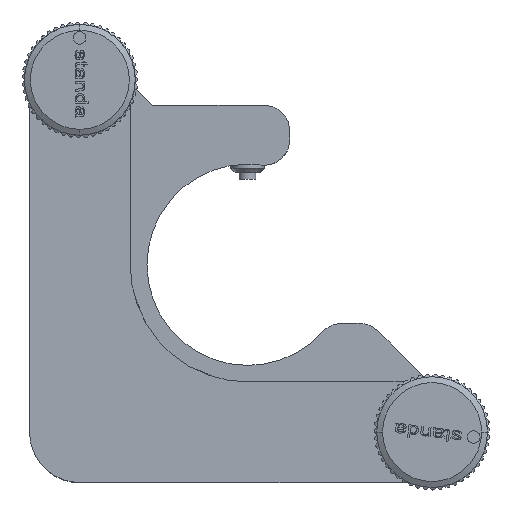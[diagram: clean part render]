
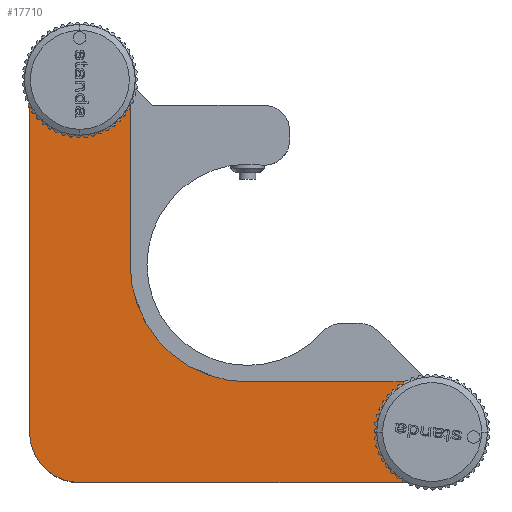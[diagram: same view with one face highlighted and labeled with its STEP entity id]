
A CAD part, top view. The second image highlights one B-rep face of the part: STEP entity #17710.
In plain terms, the highlighted planar face has unit normal (0, 0, 1).
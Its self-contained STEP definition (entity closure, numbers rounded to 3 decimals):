
#3754 = CARTESIAN_POINT ( 'NONE',  ( 46.926, 5.962, 16. ) ) ;
#3755 = AXIS2_PLACEMENT_3D ( 'NONE', #3754, #3814, #3813 ) ;
#3756 = CIRCLE ( 'NONE', #3755, 3. ) ;
#3809 = CARTESIAN_POINT ( 'NONE',  ( 46.926, 2.962, 16. ) ) ;
#3812 = CARTESIAN_POINT ( 'NONE',  ( 46.926, 8.962, 16. ) ) ;
#3813 = DIRECTION ( 'NONE',  ( 0., -1., 0. ) ) ;
#3814 = DIRECTION ( 'NONE',  ( 0., 0., -1. ) ) ;
#4319 = CARTESIAN_POINT ( 'NONE',  ( 4.926, 50.962, 16. ) ) ;
#4367 = CARTESIAN_POINT ( 'NONE',  ( 4.926, 44.962, 16. ) ) ;
#4394 = DIRECTION ( 'NONE',  ( 0., -1., 0. ) ) ;
#4395 = DIRECTION ( 'NONE',  ( 0., 0., -1. ) ) ;
#4396 = AXIS2_PLACEMENT_3D ( 'NONE', #4402, #4395, #4394 ) ;
#4397 = CIRCLE ( 'NONE', #4396, 3. ) ;
#4402 = CARTESIAN_POINT ( 'NONE',  ( 4.926, 47.962, 16. ) ) ;
#4494 = CARTESIAN_POINT ( 'NONE',  ( 52.926, 5.962, 16. ) ) ;
#4654 = DIRECTION ( 'NONE',  ( 1., 0., 0. ) ) ;
#4655 = DIRECTION ( 'NONE',  ( 0., 0., -1. ) ) ;
#4656 = CARTESIAN_POINT ( 'NONE',  ( 46.926, 5.962, 16. ) ) ;
#4657 = AXIS2_PLACEMENT_3D ( 'NONE', #4656, #4655, #4654 ) ;
#4658 = CIRCLE ( 'NONE', #4657, 6. ) ;
#4735 = CARTESIAN_POINT ( 'NONE',  ( 46.926, -0.038, 16. ) ) ;
#11690 = EDGE_CURVE ( 'NONE', #11691, #11693, #3756, .T. ) ;
#11691 = VERTEX_POINT ( 'NONE', #3812 ) ;
#11693 = VERTEX_POINT ( 'NONE', #3809 ) ;
#11965 = VERTEX_POINT ( 'NONE', #4319 ) ;
#11971 = VERTEX_POINT ( 'NONE', #4367 ) ;
#11988 = EDGE_CURVE ( 'NONE', #11965, #11971, #4397, .T. ) ;
#12043 = VERTEX_POINT ( 'NONE', #4494 ) ;
#12117 = EDGE_CURVE ( 'NONE', #12043, #12171, #4658, .T. ) ;
#12171 = VERTEX_POINT ( 'NONE', #4735 ) ;
#17491 = EDGE_CURVE ( 'NONE', #17573, #17618, #32290, .T. ) ;
#17573 = VERTEX_POINT ( 'NONE', #32363 ) ;
#17618 = VERTEX_POINT ( 'NONE', #33891 ) ;
#17635 = EDGE_CURVE ( 'NONE', #17643, #17573, #33881, .T. ) ;
#17643 = VERTEX_POINT ( 'NONE', #33928 ) ;
#17656 = EDGE_CURVE ( 'NONE', #17722, #12043, #33977, .T. ) ;
#17679 = VERTEX_POINT ( 'NONE', #34001 ) ;
#17681 = EDGE_CURVE ( 'NONE', #17618, #17679, #33999, .T. ) ;
#17685 = EDGE_CURVE ( 'NONE', #17679, #17689, #34043, .T. ) ;
#17689 = VERTEX_POINT ( 'NONE', #34038 ) ;
#17695 = EDGE_LOOP ( 'NONE', ( #17764, #17696 ) ) ;
#17696 = ORIENTED_EDGE ( 'NONE', *, *, #11690, .T. ) ;
#17699 = ORIENTED_EDGE ( 'NONE', *, *, #17721, .F. ) ;
#17700 = ORIENTED_EDGE ( 'NONE', *, *, #17685, .F. ) ;
#17702 = EDGE_LOOP ( 'NONE', ( #17703, #17704, #17768, #17769, #17761, #17762, #17699, #17700, #17772 ) ) ;
#17703 = ORIENTED_EDGE ( 'NONE', *, *, #17491, .F. ) ;
#17704 = ORIENTED_EDGE ( 'NONE', *, *, #17635, .F. ) ;
#17707 = EDGE_CURVE ( 'NONE', #17720, #17643, #34074, .T. ) ;
#17710 = ADVANCED_FACE ( 'NONE', ( #34070, #34069, #34068 ), #34067, .T. ) ;
#17720 = VERTEX_POINT ( 'NONE', #34053 ) ;
#17721 = EDGE_CURVE ( 'NONE', #17689, #17722, #34052, .T. ) ;
#17722 = VERTEX_POINT ( 'NONE', #34048 ) ;
#17728 = EDGE_CURVE ( 'NONE', #12171, #17720, #34096, .T. ) ;
#17761 = ORIENTED_EDGE ( 'NONE', *, *, #12117, .F. ) ;
#17762 = ORIENTED_EDGE ( 'NONE', *, *, #17656, .F. ) ;
#17763 = ORIENTED_EDGE ( 'NONE', *, *, #11988, .T. ) ;
#17764 = ORIENTED_EDGE ( 'NONE', *, *, #17765, .T. ) ;
#17765 = EDGE_CURVE ( 'NONE', #11693, #11691, #34115, .T. ) ;
#17768 = ORIENTED_EDGE ( 'NONE', *, *, #17707, .F. ) ;
#17769 = ORIENTED_EDGE ( 'NONE', *, *, #17728, .F. ) ;
#17772 = ORIENTED_EDGE ( 'NONE', *, *, #17681, .F. ) ;
#17773 = EDGE_LOOP ( 'NONE', ( #17774, #17763 ) ) ;
#17774 = ORIENTED_EDGE ( 'NONE', *, *, #17775, .T. ) ;
#17775 = EDGE_CURVE ( 'NONE', #11971, #11965, #34169, .T. ) ;
#32290 = CIRCLE ( 'NONE', #32326, 6. ) ;
#32323 = DIRECTION ( 'NONE',  ( 1., 0., 0. ) ) ;
#32324 = DIRECTION ( 'NONE',  ( 0., 0., -1. ) ) ;
#32325 = CARTESIAN_POINT ( 'NONE',  ( 4.926, 47.962, 16. ) ) ;
#32326 = AXIS2_PLACEMENT_3D ( 'NONE', #32325, #32324, #32323 ) ;
#32363 = CARTESIAN_POINT ( 'NONE',  ( -1.074, 47.962, 16. ) ) ;
#33878 = DIRECTION ( 'NONE',  ( 0., 1., 0. ) ) ;
#33879 = VECTOR ( 'NONE', #33878, 1000. ) ;
#33880 = CARTESIAN_POINT ( 'NONE',  ( -1.074, -0.038, 16. ) ) ;
#33881 = LINE ( 'NONE', #33880, #33879 ) ;
#33891 = CARTESIAN_POINT ( 'NONE',  ( 10.926, 47.962, 16. ) ) ;
#33928 = CARTESIAN_POINT ( 'NONE',  ( -1.074, 5.962, 16. ) ) ;
#33973 = DIRECTION ( 'NONE',  ( 1., 0., 0. ) ) ;
#33974 = DIRECTION ( 'NONE',  ( 0., 0., -1. ) ) ;
#33975 = CARTESIAN_POINT ( 'NONE',  ( 46.926, 5.962, 16. ) ) ;
#33976 = AXIS2_PLACEMENT_3D ( 'NONE', #33975, #33974, #33973 ) ;
#33977 = CIRCLE ( 'NONE', #33976, 6. ) ;
#33998 = CARTESIAN_POINT ( 'NONE',  ( 10.926, 53.962, 16. ) ) ;
#33999 = LINE ( 'NONE', #33998, #34046 ) ;
#34001 = CARTESIAN_POINT ( 'NONE',  ( 10.926, 25.962, 16. ) ) ;
#34038 = CARTESIAN_POINT ( 'NONE',  ( 24.926, 11.962, 16. ) ) ;
#34039 = DIRECTION ( 'NONE',  ( -1., 0., 0. ) ) ;
#34040 = DIRECTION ( 'NONE',  ( 0., 0., 1. ) ) ;
#34041 = CARTESIAN_POINT ( 'NONE',  ( 24.926, 25.962, 16. ) ) ;
#34042 = AXIS2_PLACEMENT_3D ( 'NONE', #34041, #34040, #34039 ) ;
#34043 = CIRCLE ( 'NONE', #34042, 14. ) ;
#34045 = DIRECTION ( 'NONE',  ( 0., -1., 0. ) ) ;
#34046 = VECTOR ( 'NONE', #34045, 1000. ) ;
#34048 = CARTESIAN_POINT ( 'NONE',  ( 46.926, 11.962, 16. ) ) ;
#34049 = DIRECTION ( 'NONE',  ( 1., 0., 0. ) ) ;
#34050 = VECTOR ( 'NONE', #34049, 1000. ) ;
#34051 = CARTESIAN_POINT ( 'NONE',  ( -1.074, 11.962, 16. ) ) ;
#34052 = LINE ( 'NONE', #34051, #34050 ) ;
#34053 = CARTESIAN_POINT ( 'NONE',  ( 4.926, -0.038, 16. ) ) ;
#34063 = DIRECTION ( 'NONE',  ( 1., 0., 0. ) ) ;
#34064 = DIRECTION ( 'NONE',  ( 0., 0., 1. ) ) ;
#34065 = CARTESIAN_POINT ( 'NONE',  ( 4.926, 26.962, 16. ) ) ;
#34066 = AXIS2_PLACEMENT_3D ( 'NONE', #34065, #34064, #34063 ) ;
#34067 = PLANE ( 'NONE',  #34066 ) ;
#34068 = FACE_BOUND ( 'NONE', #17695, .T. ) ;
#34069 = FACE_BOUND ( 'NONE', #17773, .T. ) ;
#34070 = FACE_OUTER_BOUND ( 'NONE', #17702, .T. ) ;
#34071 = DIRECTION ( 'NONE',  ( 1., 0., 0. ) ) ;
#34072 = DIRECTION ( 'NONE',  ( 0., 0., -1. ) ) ;
#34073 = AXIS2_PLACEMENT_3D ( 'NONE', #34078, #34072, #34071 ) ;
#34074 = CIRCLE ( 'NONE', #34073, 6. ) ;
#34078 = CARTESIAN_POINT ( 'NONE',  ( 4.926, 5.962, 16. ) ) ;
#34093 = DIRECTION ( 'NONE',  ( -1., 0., 0. ) ) ;
#34094 = VECTOR ( 'NONE', #34093, 1000. ) ;
#34095 = CARTESIAN_POINT ( 'NONE',  ( 10.926, -0.038, 16. ) ) ;
#34096 = LINE ( 'NONE', #34095, #34094 ) ;
#34111 = DIRECTION ( 'NONE',  ( 0., -1., 0. ) ) ;
#34112 = DIRECTION ( 'NONE',  ( 0., 0., -1. ) ) ;
#34113 = CARTESIAN_POINT ( 'NONE',  ( 46.926, 5.962, 16. ) ) ;
#34114 = AXIS2_PLACEMENT_3D ( 'NONE', #34113, #34112, #34111 ) ;
#34115 = CIRCLE ( 'NONE', #34114, 3. ) ;
#34165 = DIRECTION ( 'NONE',  ( 0., -1., 0. ) ) ;
#34166 = DIRECTION ( 'NONE',  ( 0., 0., -1. ) ) ;
#34167 = CARTESIAN_POINT ( 'NONE',  ( 4.926, 47.962, 16. ) ) ;
#34168 = AXIS2_PLACEMENT_3D ( 'NONE', #34167, #34166, #34165 ) ;
#34169 = CIRCLE ( 'NONE', #34168, 3. ) ;
